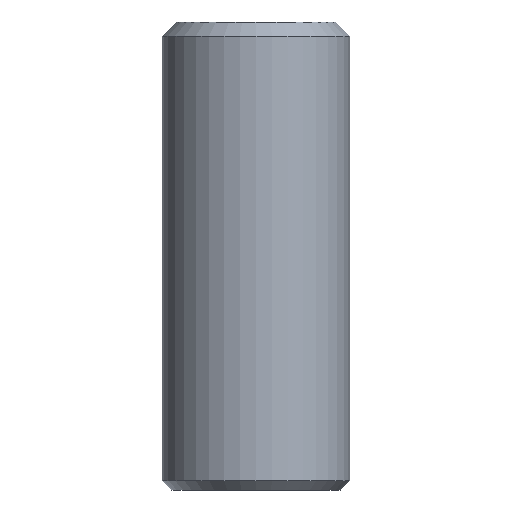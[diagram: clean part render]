
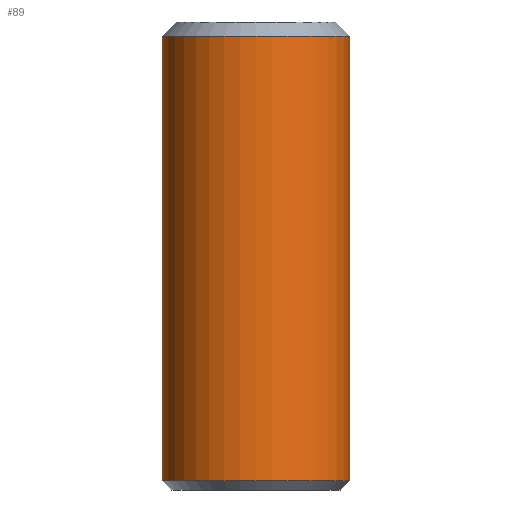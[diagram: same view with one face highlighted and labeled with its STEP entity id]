
A CAD part, front view. The second image highlights one B-rep face of the part: STEP entity #89.
In plain terms, the highlighted cylindrical face has radius 10 mm (diameter 20 mm), a full revolution.
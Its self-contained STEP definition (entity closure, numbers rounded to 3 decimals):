
#23=FACE_OUTER_BOUND('',#29,.T.);
#29=EDGE_LOOP('',(#73,#74,#75,#76));
#37=LINE('',#165,#41);
#41=VECTOR('',#139,10.);
#45=CIRCLE('',#111,10.);
#47=CIRCLE('',#114,10.);
#51=VERTEX_POINT('',#157);
#53=VERTEX_POINT('',#163);
#58=EDGE_CURVE('',#51,#51,#45,.T.);
#61=EDGE_CURVE('',#53,#53,#47,.T.);
#62=EDGE_CURVE('',#53,#51,#37,.T.);
#73=ORIENTED_EDGE('',*,*,#61,.F.);
#74=ORIENTED_EDGE('',*,*,#62,.T.);
#75=ORIENTED_EDGE('',*,*,#58,.F.);
#76=ORIENTED_EDGE('',*,*,#62,.F.);
#86=CYLINDRICAL_SURFACE('',#113,10.);
#89=ADVANCED_FACE('',(#23),#86,.T.);
#111=AXIS2_PLACEMENT_3D('',#158,#130,#131);
#113=AXIS2_PLACEMENT_3D('',#162,#135,#136);
#114=AXIS2_PLACEMENT_3D('',#164,#137,#138);
#130=DIRECTION('center_axis',(0.,0.,-1.));
#131=DIRECTION('ref_axis',(-1.,0.,0.));
#135=DIRECTION('center_axis',(0.,0.,1.));
#136=DIRECTION('ref_axis',(-1.,0.,0.));
#137=DIRECTION('center_axis',(0.,0.,1.));
#138=DIRECTION('ref_axis',(-1.,0.,0.));
#139=DIRECTION('',(0.,0.,-1.));
#157=CARTESIAN_POINT('',(-85.,95.,5.));
#158=CARTESIAN_POINT('Origin',(-95.,95.,5.));
#162=CARTESIAN_POINT('Origin',(-95.,95.,4.));
#163=CARTESIAN_POINT('',(-85.,95.,52.5));
#164=CARTESIAN_POINT('Origin',(-95.,95.,52.5));
#165=CARTESIAN_POINT('',(-85.,95.,4.));
